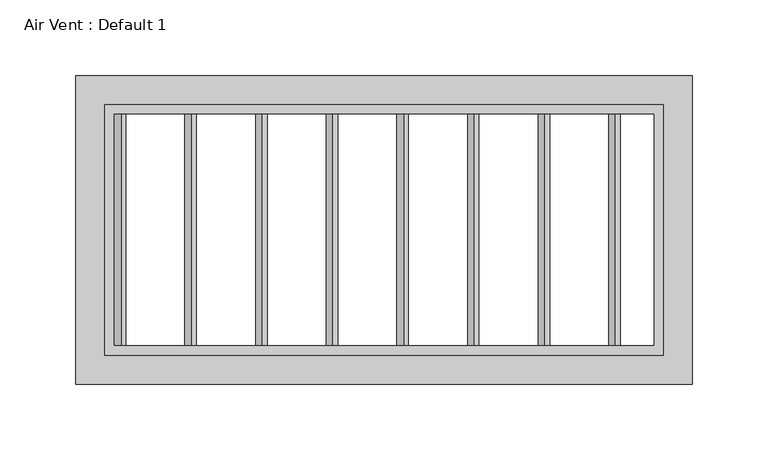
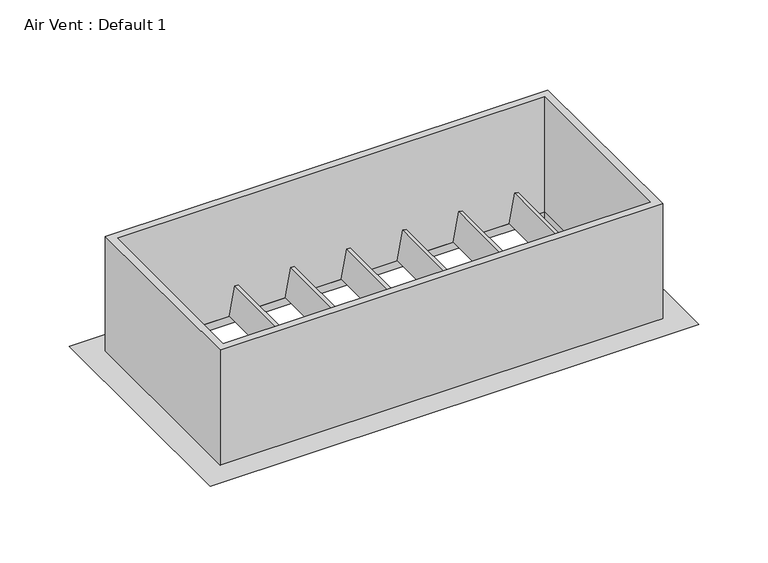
"""IFC4 building model written with IfcOpenShell, lengths in millimetres: proxy geometry, Air Vent : Default 1."""

from ifc_helpers import new_model, si_unit, frame, origin, place, context, project, spatial, polyline, outline, extrude, faceted_brep, source, transform, mapped, element, save


def air_vent_default_1_023386ce(model_context):
    return source(origin(), model_context, "Body", "SolidModel", [
        extrude(outline(polyline([(0.0, -3.175), (0.0, 0.0), (152.4, 0.0), (152.4, -3.175), (0.0, -3.175)])), frame((-131.2275149, -76.2, 2438.951333), z_axis=(0.1736481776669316, 0.0, 0.9848077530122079), x_axis=(0.0, 1.0, 0.0)), (0.0, 0.0, 1.0), 25.4),
        extrude(outline(polyline([(0.0, -3.175), (0.0, 0.0), (152.4, 0.0), (152.4, -3.175), (0.0, -3.175)])), frame((-84.6550298, -76.2, 2438.951333), z_axis=(0.1736481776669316, 0.0, 0.9848077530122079), x_axis=(0.0, 1.0, 0.0)), (0.0, 0.0, 1.0), 25.4),
        extrude(outline(polyline([(0.0, -3.175), (0.0, 0.0), (152.4, 0.0), (152.4, -3.175), (0.0, -3.175)])), frame((-38.0825447, -76.2, 2438.951333), z_axis=(0.1736481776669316, 0.0, 0.9848077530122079), x_axis=(0.0, 1.0, 0.0)), (0.0, 0.0, 1.0), 25.4),
        extrude(outline(polyline([(0.0, -3.175), (0.0, 0.0), (152.4, 0.0), (152.4, -3.175), (0.0, -3.175)])), frame((8.4899404, -76.2, 2438.951333), z_axis=(0.1736481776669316, 0.0, 0.9848077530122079), x_axis=(0.0, 1.0, 0.0)), (0.0, 0.0, 1.0), 25.4),
        extrude(outline(polyline([(0.0, -3.175), (0.0, 0.0), (152.4, 0.0), (152.4, -3.175), (0.0, -3.175)])), frame((55.0624255, -76.2, 2438.951333), z_axis=(0.1736481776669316, 0.0, 0.9848077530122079), x_axis=(0.0, 1.0, 0.0)), (0.0, 0.0, 1.0), 25.4),
        extrude(outline(polyline([(0.0, -3.175), (0.0, 0.0), (152.4, 0.0), (152.4, -3.175), (0.0, -3.175)])), frame((101.6349106, -76.2, 2438.951333), z_axis=(0.1736481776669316, 0.0, 0.9848077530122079), x_axis=(0.0, 1.0, 0.0)), (0.0, 0.0, 1.0), 25.4),
        extrude(outline(polyline([(0.0, -3.175), (0.0, 0.0), (152.4, 0.0), (152.4, -3.175), (0.0, -3.175)])), frame((148.2073957, -76.2, 2438.951333), z_axis=(0.1736481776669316, 0.0, 0.9848077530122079), x_axis=(0.0, 1.0, 0.0)), (0.0, 0.0, 1.0), 25.4),
        extrude(outline(polyline([(0.0, -3.175), (0.0, 0.0), (152.4, 0.0), (152.4, -3.175), (0.0, -3.175)])), frame((-177.8, -76.2, 2438.951333), z_axis=(0.1736481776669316, 0.0, 0.9848077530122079), x_axis=(0.0, 1.0, 0.0)), (0.0, 0.0, 1.0), 25.4),
        faceted_brep([(177.8, 76.2, 2438.4), (177.8, 76.2, 2432.05), (177.8, -76.2, 2432.05), (177.8, -76.2, 2438.4), (-177.8, -76.2, 2432.05), (-177.8, -76.2, 2438.4), (-177.8, 76.2, 2432.05), (-177.8, 76.2, 2438.4), (190.5, -88.9, 2432.05), (-190.5, -88.9, 2432.05), (-190.5, 88.9, 2432.05), (190.5, 88.9, 2432.05), (203.2, 101.6, 2438.4), (-203.2, 101.6, 2438.4), (-203.2, -101.6, 2438.4), (203.2, -101.6, 2438.4)], [[[0, 1, 2, 3]], [[3, 2, 4, 5]], [[5, 4, 6, 7]], [[8, 9, 10, 11], [1, 6, 4, 2]], [[12, 13, 14, 15], [3, 5, 7, 0]], [[7, 6, 1, 0]], [[11, 12, 15, 8]], [[8, 15, 14, 9]], [[9, 14, 13, 10]], [[10, 13, 12, 11]]]),
        extrude(outline(polyline([(184.15, 82.55), (184.15, -82.55), (-184.15, -82.55), (-184.15, 82.55), (184.15, 82.55)]), holes=[polyline([(177.8, 76.2), (-177.8, 76.2), (-177.8, -76.2), (177.8, -76.2), (177.8, 76.2)])]), frame((0.0, 0.0, 2438.4), z_axis=(0.0, 0.0, 1.0), x_axis=(1.0, 0.0, 0.0)), (0.0, 0.0, 1.0), 101.6),
    ])


if __name__ == "__main__":
    model = new_model("IFC4")
    model_context = context("Model", 3, world=origin())
    ifc_project = project(units=[si_unit("LENGTHUNIT", "METRE", prefix="MILLI")], contexts=[model_context])
    site = spatial("IfcSite", under=ifc_project)
    building = spatial("IfcBuilding", under=site)
    placement = place(None, origin())
    air_vent_default_1_shape = air_vent_default_1_023386ce(model_context)
    element("IfcBuildingElementProxy", 1, Name="Air Vent : Default 1", ObjectType="Air Vent : Default 1", at=placement, inside=building, context=model_context, shape_type="MappedRepresentation", body=[
        mapped(air_vent_default_1_shape, transform((0.0, 0.0, 0.0), x_axis=(1.0, 0.0, 0.0), y_axis=(0.0, 1.0, 0.0), z_axis=(0.0, 0.0, 1.0))),
    ])
    save(model, "model.ifc")
